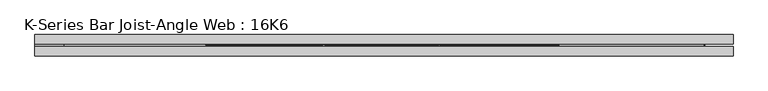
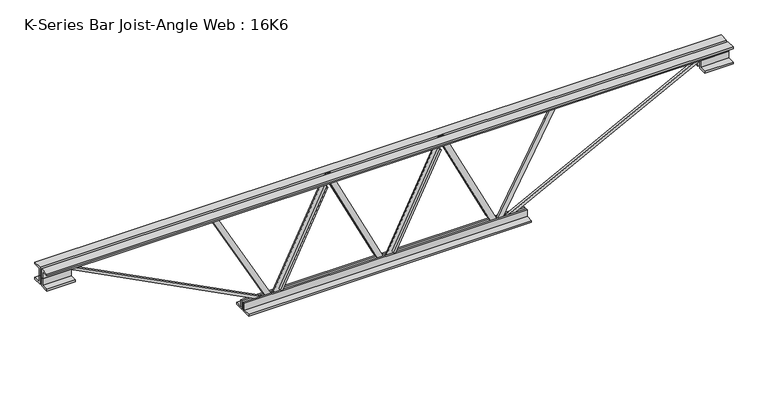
"""IFC4 building model written with IfcOpenShell, lengths in millimetres: beam geometry, K-Series Bar Joist-Angle Web : 16K6."""

from ifc_helpers import new_model, si_unit, frame, origin, place, context, project, spatial, polyline, outline, extrude, faceted_brep, source, transform, mapped, element, save


def k_series_bar_joist_angle_web_16k6_7f331a79(model_context):
    return source(origin(), model_context, "Body", "SolidModel", [
        extrude(outline(polyline([(-4.75, 4.7625), (-4.75, 0.0), (-17.45, 0.0), (-17.45, 4.7625), (-4.75, 4.7625)])), frame((370.0537456, 0.0, -164.9), z_axis=(-0.4410721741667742, 0.0, 0.8974716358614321), x_axis=(0.0, -1.0, 0.0)), (0.0, 0.0, 1.0), 367.4767946),
        extrude(outline(polyline([(-199.825, 399.5), (-180.775, 399.5), (-180.775, 399.0819842), (199.825, 212.0319842), (199.825, 193.4), (180.775, 193.4), (180.775, 200.1680158), (-199.825, 387.2180158), (-199.825, 399.5)])), frame((0.0, 0.0, 0.0), z_axis=(0.0, 1.0, 0.0), x_axis=(0.0, 0.0, 1.0)), (0.0, 0.0, 1.0), 4.75),
        faceted_brep([(0.0, 0.0, -180.775), (0.0, 0.0, -199.825), (0.0, -4.75, -199.825), (0.0, -4.75, -180.775), (0.4180158, 0.0, -180.775), (187.4680158, 0.0, 199.825), (206.1, 0.0, 199.825), (206.1, 0.0, 180.775), (199.3319842, 0.0, 180.775), (12.2819842, 0.0, -199.825), (12.2819842, -4.75, -199.825), (29.4462544, -4.75, -164.9), (25.1720457, -4.75, -162.7993938), (187.2558345, -4.75, 167.0006062), (191.5300432, -4.75, 164.9), (199.3319842, -4.75, 180.775), (206.1, -4.75, 180.775), (206.1, -4.75, 199.825), (187.4680158, -4.75, 199.825), (0.4180158, -4.75, -180.775), (191.5300432, -17.4625, 164.9), (29.4462544, -17.4625, -164.9), (25.1720457, -17.4625, -162.7993938), (187.2558345, -17.4625, 167.0006062)], [[[0, 1, 2, 3]], [[1, 0, 4, 5, 6, 7, 8, 9]], [[2, 1, 9, 10]], [[3, 2, 10, 11, 12, 13, 14, 15, 16, 17, 18, 19]], [[0, 3, 19, 4]], [[9, 8, 15, 14, 20, 21, 11, 10]], [[5, 4, 19, 18]], [[7, 6, 17, 16]], [[8, 7, 16, 15]], [[6, 5, 18, 17]], [[21, 22, 12, 11]], [[20, 14, 13, 23]], [[22, 21, 20, 23]], [[12, 22, 23, 13]]]),
        extrude(outline(polyline([(-4.75, 4.7625), (-4.75, 0.0), (-17.45, 0.0), (-17.45, 4.7625), (-4.75, 4.7625)])), frame((-29.4462544, 0.0, -164.9), z_axis=(-0.4410721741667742, 0.0, 0.8974716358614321), x_axis=(0.0, -1.0, 0.0)), (0.0, 0.0, 1.0), 367.4767946),
        extrude(outline(polyline([(-199.825, 0.0), (-180.775, 0.0), (-180.775, -0.4180158), (199.825, -187.4680158), (199.825, -206.1), (180.775, -206.1), (180.775, -199.3319842), (-199.825, -12.2819842), (-199.825, 0.0)])), frame((0.0, 0.0, 0.0), z_axis=(0.0, 1.0, 0.0), x_axis=(0.0, 0.0, 1.0)), (0.0, 0.0, 1.0), 4.75),
        faceted_brep([(-399.5, 0.0, -180.775), (-399.5, 0.0, -199.825), (-399.5, -4.75, -199.825), (-399.5, -4.75, -180.775), (-399.0819842, 0.0, -180.775), (-212.0319842, 0.0, 199.825), (-193.4, 0.0, 199.825), (-193.4, 0.0, 180.775), (-200.1680158, 0.0, 180.775), (-387.2180158, 0.0, -199.825), (-387.2180158, -4.75, -199.825), (-370.0537456, -4.75, -164.9), (-374.3279543, -4.75, -162.7993938), (-212.2441655, -4.75, 167.0006062), (-207.9699568, -4.75, 164.9), (-200.1680158, -4.75, 180.775), (-193.4, -4.75, 180.775), (-193.4, -4.75, 199.825), (-212.0319842, -4.75, 199.825), (-399.0819842, -4.75, -180.775), (-207.9699568, -17.4625, 164.9), (-370.0537456, -17.4625, -164.9), (-374.3279543, -17.4625, -162.7993938), (-212.2441655, -17.4625, 167.0006062)], [[[0, 1, 2, 3]], [[1, 0, 4, 5, 6, 7, 8, 9]], [[2, 1, 9, 10]], [[3, 2, 10, 11, 12, 13, 14, 15, 16, 17, 18, 19]], [[0, 3, 19, 4]], [[9, 8, 15, 14, 20, 21, 11, 10]], [[5, 4, 19, 18]], [[7, 6, 17, 16]], [[8, 7, 16, 15]], [[6, 5, 18, 17]], [[21, 22, 12, 11]], [[20, 14, 13, 23]], [[22, 21, 20, 23]], [[12, 22, 23, 13]]]),
        extrude(outline(polyline([(4.75, 203.0), (36.75, 203.0), (36.75, 196.5), (11.25, 196.5), (11.25, 171.0), (4.75, 171.0), (4.75, 203.0)])), frame((-1211.5, 0.0, 0.0), z_axis=(1.0, 0.0, 0.0), x_axis=(0.0, 1.0, 0.0)), (0.0, 0.0, 1.0), 2423.0),
        extrude(outline(polyline([(-4.75, 203.0), (-4.75, 171.0), (-11.25, 171.0), (-11.25, 196.5), (-36.75, 196.5), (-36.75, 203.0), (-4.75, 203.0)])), frame((-1211.5, 0.0, 0.0), z_axis=(1.0, 0.0, 0.0), x_axis=(0.0, 1.0, 0.0)), (0.0, 0.0, 1.0), 2423.0),
        extrude(outline(polyline([(4.75, -203.0), (4.75, -171.0), (11.25, -171.0), (11.25, -196.5), (36.75, -196.5), (36.75, -203.0), (4.75, -203.0)])), frame((-499.5, 0.0, 0.0), z_axis=(1.0, 0.0, 0.0), x_axis=(0.0, 1.0, 0.0)), (0.0, 0.0, 1.0), 999.0),
        extrude(outline(polyline([(-4.75, -203.0), (-36.75, -203.0), (-36.75, -196.5), (-11.25, -196.5), (-11.25, -171.0), (-4.75, -171.0), (-4.75, -203.0)])), frame((-499.5, 0.0, 0.0), z_axis=(1.0, 0.0, 0.0), x_axis=(0.0, 1.0, 0.0)), (0.0, 0.0, 1.0), 999.0),
        extrude(outline(polyline([(4.75, 139.5), (4.75, 171.0), (11.25, 171.0), (11.25, 146.0), (36.75, 146.0), (36.75, 139.5), (4.75, 139.5)])), frame((1111.5, 0.0, 0.0), z_axis=(1.0, 0.0, 0.0), x_axis=(0.0, 1.0, 0.0)), (0.0, 0.0, 1.0), 100.0),
        extrude(outline(polyline([(-4.75, 139.5), (-36.75, 139.5), (-36.75, 146.0), (-11.25, 146.0), (-11.25, 171.0), (-4.75, 171.0), (-4.75, 139.5)])), frame((1111.5, 0.0, 0.0), z_axis=(1.0, 0.0, 0.0), x_axis=(0.0, 1.0, 0.0)), (0.0, 0.0, 1.0), 100.0),
        extrude(outline(polyline([(-4.75, 139.5), (-36.75, 139.5), (-36.75, 146.0), (-11.25, 146.0), (-11.25, 171.0), (-4.75, 171.0), (-4.75, 139.5)])), frame((-1211.5, 0.0, 0.0), z_axis=(1.0, 0.0, 0.0), x_axis=(0.0, 1.0, 0.0)), (0.0, 0.0, 1.0), 100.0),
        extrude(outline(polyline([(36.75, 139.5), (4.75, 139.5), (4.75, 171.0), (11.25, 171.0), (11.25, 146.0), (36.75, 146.0), (36.75, 139.5)])), frame((-1211.5, 0.0, 0.0), z_axis=(1.0, 0.0, 0.0), x_axis=(0.0, 1.0, 0.0)), (0.0, 0.0, 1.0), 100.0),
        extrude(outline(polyline([(193.9566712, -619.2071429), (174.9066712, -619.2071429), (174.9066712, -611.8829108), (-200.9708769, -407.4442947), (-191.8688408, -390.7094377), (193.9566712, -600.5587201), (193.9566712, -619.2071429)])), frame((0.0, 0.0, 0.0), z_axis=(0.0, 1.0, 0.0), x_axis=(0.0, 0.0, 1.0)), (0.0, 0.0, 1.0), 4.7625),
        extrude(outline(polyline([(-4.7625, -10.5646147), (-4.7625, 8.4853854), (0.0, 8.4853854), (0.0, -10.5646147), (-4.7625, -10.5646147)])), frame((399.5, 0.0, -196.65), z_axis=(0.4774030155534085, 0.0, 0.8786844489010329), x_axis=(0.0, -1.0, 0.0)), (0.0, 0.0, 1.0), 418.40959),
        extrude(outline(polyline([(-200.8705467, -401.6793315), (-192.4294533, -397.3206685), (175.75, -1110.3460208), (175.75, -1211.5), (166.25, -1211.5), (166.25, -1112.6539792), (-200.8705467, -401.6793315)])), frame((0.0, -4.75, 0.0), z_axis=(0.0, 1.0, 0.0), x_axis=(0.0, 0.0, 1.0)), (0.0, 0.0, 1.0), 9.5),
        extrude(outline(polyline([(0.0, -9.5), (0.0, 0.0), (801.3179909, 0.0), (801.3179909, -9.5), (0.0, -9.5)])), frame((1113.6793315, -4.75, 166.7794533), z_axis=(-0.4588066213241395, 0.0, 0.888536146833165), x_axis=(-0.888536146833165, 0.0, -0.4588066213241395)), (0.0, 0.0, 1.0), 9.5),
    ])


if __name__ == "__main__":
    model = new_model("IFC4")
    model_context = context("Model", 3, world=origin())
    ifc_project = project(units=[si_unit("LENGTHUNIT", "METRE", prefix="MILLI")], contexts=[model_context])
    site = spatial("IfcSite", under=ifc_project)
    building = spatial("IfcBuilding", under=site)
    placement = place(None, origin())
    k_series_bar_joist_angle_web_16k6_shape = k_series_bar_joist_angle_web_16k6_7f331a79(model_context)
    element("IfcBeam", 1, ObjectType="K-Series Bar Joist-Angle Web : 16K6", at=placement, inside=building, context=model_context, shape_type="MappedRepresentation", body=[
        mapped(k_series_bar_joist_angle_web_16k6_shape, transform((0.0, 0.0, 0.0), x_axis=(1.0, 0.0, 0.0), y_axis=(0.0, 1.0, 0.0), z_axis=(0.0, 0.0, 1.0))),
    ])
    save(model, "model.ifc")
